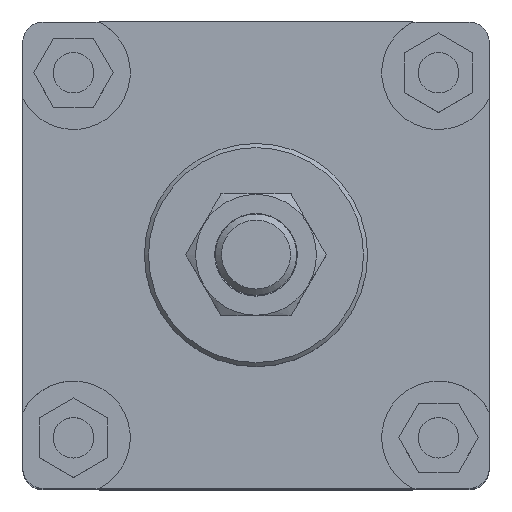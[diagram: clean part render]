
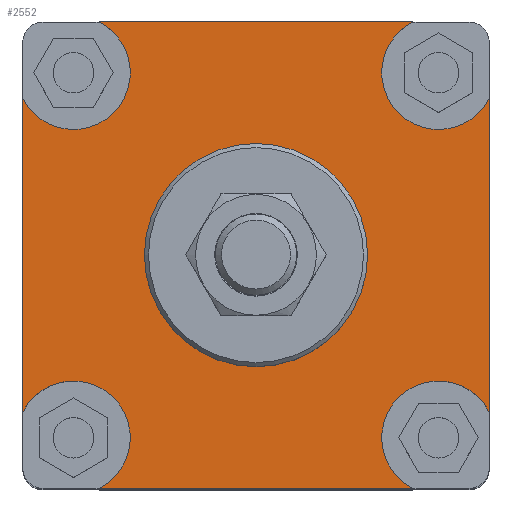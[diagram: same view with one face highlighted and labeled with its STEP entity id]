
A CAD part, top view. The second image highlights one B-rep face of the part: STEP entity #2552.
In plain terms, the highlighted planar face has unit normal (0, 0, 1) as drawn and (0, 0, -1) by its records, which use the part's own axes.
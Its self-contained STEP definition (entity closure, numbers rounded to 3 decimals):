
#117=LINE('',#3921,#339);
#146=LINE('',#3997,#368);
#147=LINE('',#3998,#369);
#148=LINE('',#3999,#370);
#339=VECTOR('',#3157,77.39);
#368=VECTOR('',#3230,77.39);
#369=VECTOR('',#3231,77.39);
#370=VECTOR('',#3232,77.39);
#552=FACE_BOUND('',#881,.T.);
#713=FACE_OUTER_BOUND('',#880,.T.);
#880=EDGE_LOOP('',(#1939,#1940,#1941,#1942,#1943,#1944,#1945,#1946));
#881=EDGE_LOOP('',(#1947));
#1057=CIRCLE('',#2718,14.);
#1060=CIRCLE('',#2729,14.);
#1063=CIRCLE('',#2740,14.);
#1072=CIRCLE('',#2764,14.);
#1074=CIRCLE('',#2768,27.5);
#1166=VERTEX_POINT('',#3800);
#1167=VERTEX_POINT('',#3802);
#1184=VERTEX_POINT('',#3851);
#1185=VERTEX_POINT('',#3853);
#1202=VERTEX_POINT('',#3902);
#1203=VERTEX_POINT('',#3904);
#1208=VERTEX_POINT('',#3920);
#1232=VERTEX_POINT('',#3989);
#1234=VERTEX_POINT('',#4000);
#1416=EDGE_CURVE('',#1167,#1166,#1057,.T.);
#1441=EDGE_CURVE('',#1185,#1184,#1060,.T.);
#1466=EDGE_CURVE('',#1203,#1202,#1063,.T.);
#1474=EDGE_CURVE('',#1167,#1208,#117,.T.);
#1507=EDGE_CURVE('',#1232,#1208,#1072,.T.);
#1511=EDGE_CURVE('',#1185,#1166,#146,.T.);
#1512=EDGE_CURVE('',#1203,#1184,#147,.T.);
#1513=EDGE_CURVE('',#1232,#1202,#148,.T.);
#1514=EDGE_CURVE('',#1234,#1234,#1074,.T.);
#1939=ORIENTED_EDGE('',*,*,#1416,.T.);
#1940=ORIENTED_EDGE('',*,*,#1511,.F.);
#1941=ORIENTED_EDGE('',*,*,#1441,.T.);
#1942=ORIENTED_EDGE('',*,*,#1512,.F.);
#1943=ORIENTED_EDGE('',*,*,#1466,.T.);
#1944=ORIENTED_EDGE('',*,*,#1513,.F.);
#1945=ORIENTED_EDGE('',*,*,#1507,.T.);
#1946=ORIENTED_EDGE('',*,*,#1474,.F.);
#1947=ORIENTED_EDGE('',*,*,#1514,.T.);
#2431=PLANE('',#2767);
#2552=ADVANCED_FACE('',(#713,#552),#2431,.F.);
#2718=AXIS2_PLACEMENT_3D('',#3803,#3052,#3053);
#2729=AXIS2_PLACEMENT_3D('',#3854,#3096,#3097);
#2740=AXIS2_PLACEMENT_3D('',#3905,#3140,#3141);
#2764=AXIS2_PLACEMENT_3D('',#3990,#3220,#3221);
#2767=AXIS2_PLACEMENT_3D('',#3996,#3228,#3229);
#2768=AXIS2_PLACEMENT_3D('',#4001,#3233,#3234);
#3052=DIRECTION('center_axis',(0.,0.,1.));
#3053=DIRECTION('ref_axis',(-0.45,-0.893,0.));
#3096=DIRECTION('center_axis',(0.,0.,1.));
#3097=DIRECTION('ref_axis',(-0.893,0.45,0.));
#3140=DIRECTION('center_axis',(0.,0.,1.));
#3141=DIRECTION('ref_axis',(0.45,0.893,0.));
#3157=DIRECTION('',(0.,1.,0.));
#3220=DIRECTION('center_axis',(0.,0.,1.));
#3221=DIRECTION('ref_axis',(0.893,-0.45,0.));
#3228=DIRECTION('center_axis',(0.,0.,1.));
#3229=DIRECTION('ref_axis',(1.,0.,0.));
#3230=DIRECTION('',(1.,0.,0.));
#3231=DIRECTION('',(0.,-1.,0.));
#3232=DIRECTION('',(-1.,0.,0.));
#3233=DIRECTION('center_axis',(0.,0.,1.));
#3234=DIRECTION('ref_axis',(1.,0.,0.));
#3800=CARTESIAN_POINT('',(38.695,-57.5,-35.));
#3802=CARTESIAN_POINT('',(57.5,-38.695,-35.));
#3803=CARTESIAN_POINT('Origin',(45.,-45.,-35.));
#3851=CARTESIAN_POINT('',(-57.5,-38.695,-35.));
#3853=CARTESIAN_POINT('',(-38.695,-57.5,-35.));
#3854=CARTESIAN_POINT('Origin',(-45.,-45.,-35.));
#3902=CARTESIAN_POINT('',(-38.695,57.5,-35.));
#3904=CARTESIAN_POINT('',(-57.5,38.695,-35.));
#3905=CARTESIAN_POINT('Origin',(-45.,45.,-35.));
#3920=CARTESIAN_POINT('',(57.5,38.695,-35.));
#3921=CARTESIAN_POINT('',(57.5,52.5,-35.));
#3989=CARTESIAN_POINT('',(38.695,57.5,-35.));
#3990=CARTESIAN_POINT('Origin',(45.,45.,-35.));
#3996=CARTESIAN_POINT('Origin',(0.,0.,-35.));
#3997=CARTESIAN_POINT('',(52.5,-57.5,-35.));
#3998=CARTESIAN_POINT('',(-57.5,-52.5,-35.));
#3999=CARTESIAN_POINT('',(-52.5,57.5,-35.));
#4000=CARTESIAN_POINT('',(-27.5,0.,-35.));
#4001=CARTESIAN_POINT('Origin',(0.,0.,-35.));
